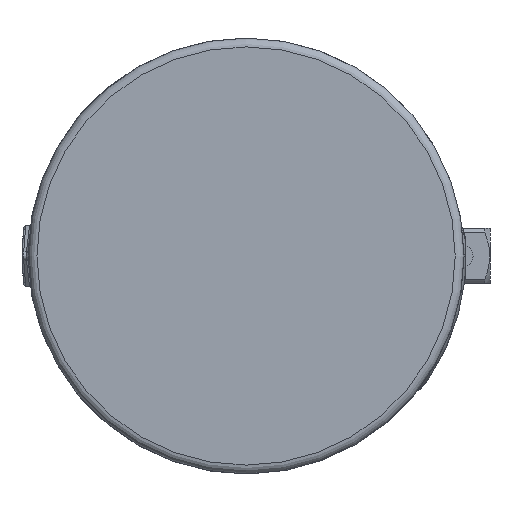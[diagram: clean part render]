
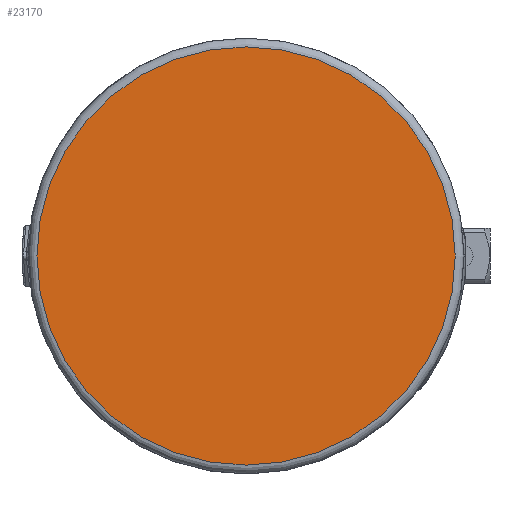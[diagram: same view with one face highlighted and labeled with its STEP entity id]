
A CAD part, left-side view. The second image highlights one B-rep face of the part: STEP entity #23170.
In plain terms, the highlighted planar face has unit normal (-1, 0, 0).
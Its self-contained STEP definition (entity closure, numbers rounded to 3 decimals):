
#5064 = PLANE ( 'NONE',  #35415 ) ;
#8875 = VERTEX_POINT ( 'NONE', #14335 ) ;
#14335 = CARTESIAN_POINT ( 'NONE',  ( -432.6, 0., 23.75 ) ) ;
#15217 = AXIS2_PLACEMENT_3D ( 'NONE', #28855, #15840, #15594 ) ;
#15594 = DIRECTION ( 'NONE',  ( 0., 0., 1. ) ) ;
#15840 = DIRECTION ( 'NONE',  ( -1., 0., 0. ) ) ;
#18462 = DIRECTION ( 'NONE',  ( -1., 0., 0. ) ) ;
#19494 = EDGE_CURVE ( 'NONE', #8875, #8875, #32634, .T. ) ;
#22070 = EDGE_LOOP ( 'NONE', ( #35667 ) ) ;
#23170 = ADVANCED_FACE ( 'NONE', ( #23547 ), #5064, .T. ) ;
#23547 = FACE_OUTER_BOUND ( 'NONE', #22070, .T. ) ;
#28855 = CARTESIAN_POINT ( 'NONE',  ( -432.6, 0., 0. ) ) ;
#32634 = CIRCLE ( 'NONE', #15217, 23.75 ) ;
#35415 = AXIS2_PLACEMENT_3D ( 'NONE', #42417, #18462, #39021 ) ;
#35667 = ORIENTED_EDGE ( 'NONE', *, *, #19494, .T. ) ;
#39021 = DIRECTION ( 'NONE',  ( 0., 0., 1. ) ) ;
#42417 = CARTESIAN_POINT ( 'NONE',  ( -432.6, 0., 0. ) ) ;
